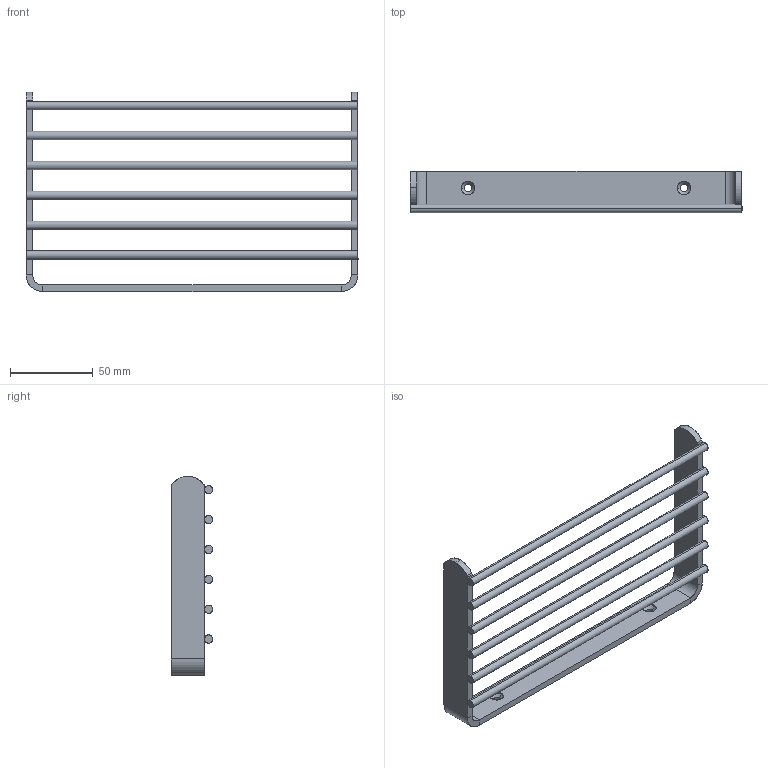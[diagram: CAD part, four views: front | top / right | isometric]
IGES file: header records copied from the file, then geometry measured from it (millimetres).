
Start section: SolidWorks IGES file using analytic representation for surfaces
Global section: file name: G:\Projects\New project\For Marketing\IGS\IGS\2015-11-13\2900239VW.IGS; native system: SolidWorks 2010; preprocessor: SolidWorks 2010; author: weijuan; date: 151112.152350; units: inch
Bounding box: 200 x 25 x 120 mm (x, y, z)
Surface area: 39506.4 mm2 (no closed solid volume)
Topology: 0 solids, 0 shells, 63 faces, 560 edges, 560 vertices
Faces by surface type: revolution 35, bspline 28
